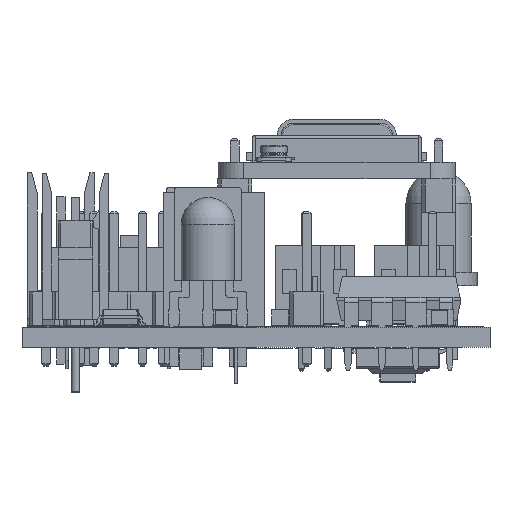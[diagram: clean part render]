
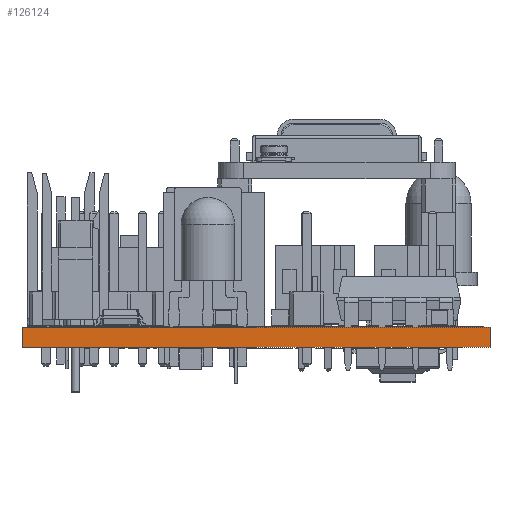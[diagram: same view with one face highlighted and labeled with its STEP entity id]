
A CAD part, front view. The second image highlights one B-rep face of the part: STEP entity #126124.
In plain terms, the highlighted planar face has unit normal (0, -1, 0).
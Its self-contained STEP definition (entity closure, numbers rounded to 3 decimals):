
#126124 = ADVANCED_FACE('',(#126125),#126159,.T.);
#126125 = FACE_BOUND('',#126126,.T.);
#126126 = EDGE_LOOP('',(#126127,#126137,#126145,#126153));
#126127 = ORIENTED_EDGE('',*,*,#126128,.T.);
#126128 = EDGE_CURVE('',#126129,#126131,#126133,.T.);
#126129 = VERTEX_POINT('',#126130);
#126130 = CARTESIAN_POINT('',(165.,-105.,0.));
#126131 = VERTEX_POINT('',#126132);
#126132 = CARTESIAN_POINT('',(165.,-105.,1.51));
#126133 = LINE('',#126134,#126135);
#126134 = CARTESIAN_POINT('',(165.,-105.,0.));
#126135 = VECTOR('',#126136,1.);
#126136 = DIRECTION('',(0.,0.,1.));
#126137 = ORIENTED_EDGE('',*,*,#126138,.T.);
#126138 = EDGE_CURVE('',#126131,#126139,#126141,.T.);
#126139 = VERTEX_POINT('',#126140);
#126140 = CARTESIAN_POINT('',(130.,-105.,1.51));
#126141 = LINE('',#126142,#126143);
#126142 = CARTESIAN_POINT('',(165.,-105.,1.51));
#126143 = VECTOR('',#126144,1.);
#126144 = DIRECTION('',(-1.,0.,0.));
#126145 = ORIENTED_EDGE('',*,*,#126146,.F.);
#126146 = EDGE_CURVE('',#126147,#126139,#126149,.T.);
#126147 = VERTEX_POINT('',#126148);
#126148 = CARTESIAN_POINT('',(130.,-105.,0.));
#126149 = LINE('',#126150,#126151);
#126150 = CARTESIAN_POINT('',(130.,-105.,0.));
#126151 = VECTOR('',#126152,1.);
#126152 = DIRECTION('',(0.,0.,1.));
#126153 = ORIENTED_EDGE('',*,*,#126154,.F.);
#126154 = EDGE_CURVE('',#126129,#126147,#126155,.T.);
#126155 = LINE('',#126156,#126157);
#126156 = CARTESIAN_POINT('',(165.,-105.,0.));
#126157 = VECTOR('',#126158,1.);
#126158 = DIRECTION('',(-1.,0.,0.));
#126159 = PLANE('',#126160);
#126160 = AXIS2_PLACEMENT_3D('',#126161,#126162,#126163);
#126161 = CARTESIAN_POINT('',(165.,-105.,0.));
#126162 = DIRECTION('',(0.,-1.,0.));
#126163 = DIRECTION('',(-1.,0.,0.));
